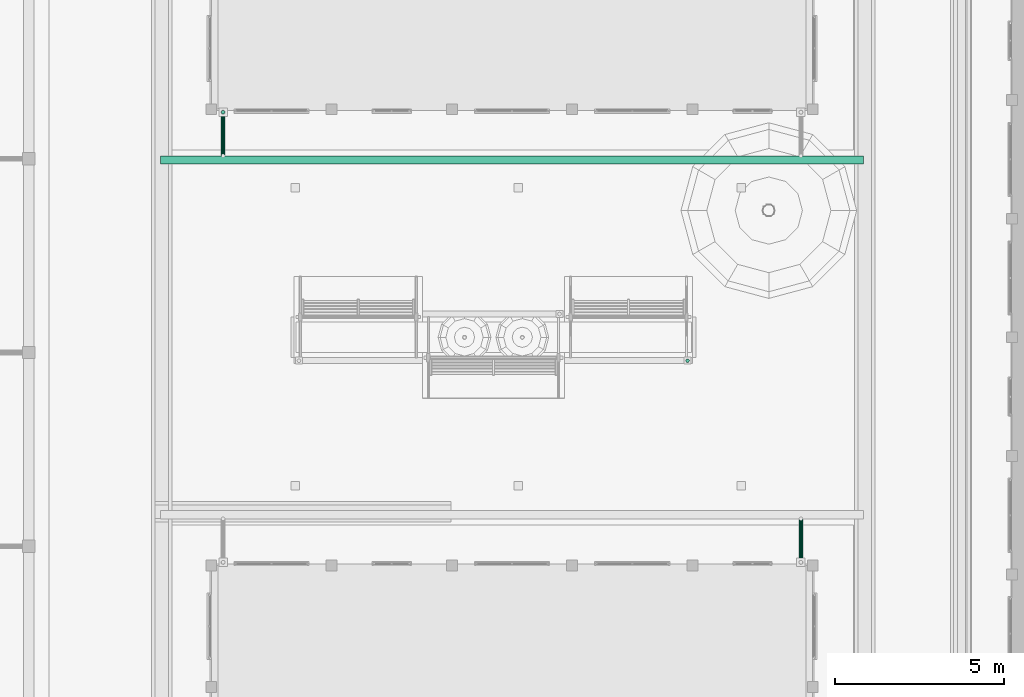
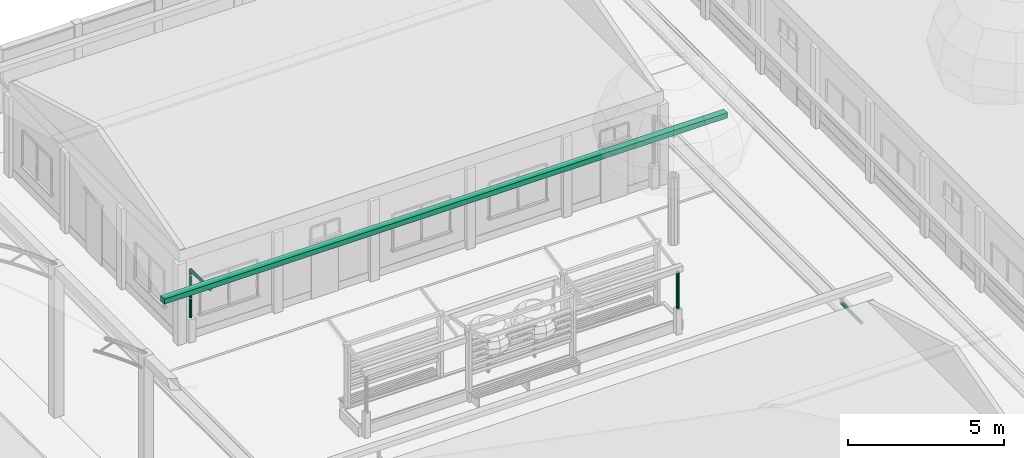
# One storey, part 110 of 177: 5 pipe segments.
"""IFC4 building model written with IfcOpenShell, lengths in metres."""

from ifc_helpers import new_model, si_unit, origin, origin_with_axes, place, context, subcontext, project, spatial, triangles, element, save


model = new_model("IFC4")

# Units and contexts
model_context = context("Model", 3, precision=1e-05, world=origin_with_axes())
body_context = subcontext(model_context, "Body", "Model", "MODEL_VIEW")
ifc_project = project(units=[si_unit("LENGTHUNIT", "METRE"), si_unit("AREAUNIT", "SQUARE_METRE"), si_unit("VOLUMEUNIT", "CUBIC_METRE"), si_unit("PLANEANGLEUNIT", "RADIAN")], contexts=[model_context])

# Site, building, storey
site_placement = place(None, origin_with_axes())
site = spatial("IfcSite", under=ifc_project, at=site_placement, Name="Predio Los Mangos - Morales, San Martín", CompositionType="ELEMENT")
building_placement = place(site_placement, origin())
building = spatial("IfcBuilding", under=site, at=building_placement, Name="Hogar de Refugio Temporal", CompositionType="ELEMENT")
storey_placement = place(building_placement, origin())
storey = spatial("IfcBuildingStorey", under=building, at=storey_placement, Name="NIVEL 1 (NPT +0.00)", CompositionType="ELEMENT", Elevation=0.0)

# Pipe segments
pipe_segment_1_placement = place(storey_placement, origin())
element("IfcPipeSegment", 1, at=pipe_segment_1_placement, inside=storey, Name="E-08_canaleta", ObjectType="Canaleta", PredefinedType="GUTTER", context=body_context, shape_type="Tessellation", body=[
    triangles([(30.5, 115.38, 3.13), (51.3, 115.38, 3.13), (51.3, 115.62, 3.13), (30.5, 115.62, 3.13), (30.5, 115.38, 3.33), (51.3, 115.38, 3.33), (51.3, 115.62, 3.33), (30.5, 115.62, 3.33)], [[1, 4, 3], [1, 3, 2], [5, 6, 7], [5, 7, 8], [1, 2, 6], [1, 6, 5], [2, 3, 7], [2, 7, 6], [3, 4, 8], [3, 8, 7], [4, 1, 5], [4, 5, 8]]),
])
pipe_segment_2_placement = place(storey_placement, origin())
element("IfcPipeSegment", 2, at=pipe_segment_2_placement, inside=storey, Name="montante_desvio", ObjectType="Montante PVC 4\"", PredefinedType="RIGIDSEGMENT", context=body_context, shape_type="Tessellation", body=[
    triangles([(49.45, 104.88, 2.965), (49.45, 103.59, 2.965), (49.4775, 104.88, 2.9576), (49.4775, 103.59, 2.9576), (49.4976, 104.88, 2.9375), (49.4976, 103.59, 2.9375), (49.505, 104.88, 2.91), (49.505, 103.59, 2.91), (49.4976, 104.88, 2.8825), (49.4976, 103.59, 2.8825), (49.4775, 104.88, 2.8624), (49.4775, 103.59, 2.8624), (49.45, 104.88, 2.855), (49.45, 103.59, 2.855), (49.4225, 104.88, 2.8624), (49.4225, 103.59, 2.8624), (49.4024, 104.88, 2.8825), (49.4024, 103.59, 2.8825), (49.395, 104.88, 2.91), (49.395, 103.59, 2.91), (49.4024, 104.88, 2.9375), (49.4024, 103.59, 2.9375), (49.4225, 104.88, 2.9576), (49.4225, 103.59, 2.9576)], [[1, 2, 4], [1, 4, 3], [3, 4, 6], [3, 6, 5], [5, 6, 8], [5, 8, 7], [7, 8, 10], [7, 10, 9], [9, 10, 12], [9, 12, 11], [11, 12, 14], [11, 14, 13], [13, 14, 16], [13, 16, 15], [15, 16, 18], [15, 18, 17], [17, 18, 20], [17, 20, 19], [19, 20, 22], [19, 22, 21], [6, 4, 2], [2, 24, 22], [22, 20, 18], [18, 16, 14], [14, 12, 10], [10, 8, 6], [6, 2, 22], [22, 18, 14], [14, 10, 6], [22, 14, 6], [21, 22, 24], [21, 24, 23], [23, 24, 2], [23, 2, 1], [23, 1, 3], [3, 5, 7], [7, 9, 11], [11, 13, 15], [15, 17, 19], [19, 21, 23], [23, 3, 7], [7, 11, 15], [15, 19, 23], [7, 15, 23]]),
])
pipe_segment_3_placement = place(storey_placement, origin())
element("IfcPipeSegment", 3, at=pipe_segment_3_placement, inside=storey, Name="montante_desvio", ObjectType="Montante PVC 4\"", PredefinedType="RIGIDSEGMENT", context=body_context, shape_type="Tessellation", body=[
    triangles([(32.35, 115.62, 2.965), (32.35, 116.91, 2.965), (32.3225, 115.62, 2.9576), (32.3225, 116.91, 2.9576), (32.3024, 115.62, 2.9375), (32.3024, 116.91, 2.9375), (32.295, 115.62, 2.91), (32.295, 116.91, 2.91), (32.3024, 115.62, 2.8825), (32.3024, 116.91, 2.8825), (32.3225, 115.62, 2.8624), (32.3225, 116.91, 2.8624), (32.35, 115.62, 2.855), (32.35, 116.91, 2.855), (32.3775, 115.62, 2.8624), (32.3775, 116.91, 2.8624), (32.3976, 115.62, 2.8825), (32.3976, 116.91, 2.8825), (32.405, 115.62, 2.91), (32.405, 116.91, 2.91), (32.3976, 115.62, 2.9375), (32.3976, 116.91, 2.9375), (32.3775, 115.62, 2.9576), (32.3775, 116.91, 2.9576)], [[1, 2, 4], [1, 4, 3], [3, 4, 6], [3, 6, 5], [5, 6, 8], [5, 8, 7], [7, 8, 10], [7, 10, 9], [9, 10, 12], [9, 12, 11], [11, 12, 14], [11, 14, 13], [13, 14, 16], [13, 16, 15], [15, 16, 18], [15, 18, 17], [17, 18, 20], [17, 20, 19], [19, 20, 22], [19, 22, 21], [6, 4, 2], [2, 24, 22], [22, 20, 18], [18, 16, 14], [14, 12, 10], [10, 8, 6], [6, 2, 22], [22, 18, 14], [14, 10, 6], [22, 14, 6], [21, 22, 24], [21, 24, 23], [23, 24, 2], [23, 2, 1], [23, 1, 3], [3, 5, 7], [7, 9, 11], [11, 13, 15], [15, 17, 19], [19, 21, 23], [23, 3, 7], [7, 11, 15], [15, 19, 23], [7, 15, 23]]),
])
pipe_segment_4_placement = place(storey_placement, origin())
element("IfcPipeSegment", 4, at=pipe_segment_4_placement, inside=storey, Name="montante_bajada", ObjectType="Montante PVC 4\"", PredefinedType="RIGIDSEGMENT", context=body_context, shape_type="Tessellation", body=[
    triangles([(32.35, 116.965, 2.91), (32.35, 116.965, 1.05), (32.3225, 116.9576, 2.91), (32.3225, 116.9576, 1.05), (32.3024, 116.9375, 2.91), (32.3024, 116.9375, 1.05), (32.295, 116.91, 2.91), (32.295, 116.91, 1.05), (32.3024, 116.8825, 2.91), (32.3024, 116.8825, 1.05), (32.3225, 116.8624, 2.91), (32.3225, 116.8624, 1.05), (32.35, 116.855, 2.91), (32.35, 116.855, 1.05), (32.3775, 116.8624, 2.91), (32.3775, 116.8624, 1.05), (32.3976, 116.8825, 2.91), (32.3976, 116.8825, 1.05), (32.405, 116.91, 2.91), (32.405, 116.91, 1.05), (32.3976, 116.9375, 2.91), (32.3976, 116.9375, 1.05), (32.3775, 116.9576, 2.91), (32.3775, 116.9576, 1.05)], [[1, 2, 4], [1, 4, 3], [3, 4, 6], [3, 6, 5], [5, 6, 8], [5, 8, 7], [7, 8, 10], [7, 10, 9], [9, 10, 12], [9, 12, 11], [11, 12, 14], [11, 14, 13], [13, 14, 16], [13, 16, 15], [15, 16, 18], [15, 18, 17], [17, 18, 20], [17, 20, 19], [19, 20, 22], [19, 22, 21], [6, 4, 2], [2, 24, 22], [22, 20, 18], [18, 16, 14], [14, 12, 10], [10, 8, 6], [6, 2, 22], [22, 18, 14], [14, 10, 6], [22, 14, 6], [21, 22, 24], [21, 24, 23], [23, 24, 2], [23, 2, 1], [23, 1, 3], [3, 5, 7], [7, 9, 11], [11, 13, 15], [15, 17, 19], [19, 21, 23], [23, 3, 7], [7, 11, 15], [15, 19, 23], [7, 15, 23]]),
])
pipe_segment_5_placement = place(storey_placement, origin())
element("IfcPipeSegment", 5, at=pipe_segment_5_placement, inside=storey, Name="oc01_bajada", ObjectType="Montante PVC 4\"", PredefinedType="RIGIDSEGMENT", context=body_context, shape_type="Tessellation", body=[
    triangles([(46.095, 109.615, 2.49), (46.095, 109.615, 1.05), (46.0675, 109.6076, 2.49), (46.0675, 109.6076, 1.05), (46.0474, 109.5875, 2.49), (46.0474, 109.5875, 1.05), (46.04, 109.56, 2.49), (46.04, 109.56, 1.05), (46.0474, 109.5325, 2.49), (46.0474, 109.5325, 1.05), (46.0675, 109.5124, 2.49), (46.0675, 109.5124, 1.05), (46.095, 109.505, 2.49), (46.095, 109.505, 1.05), (46.1225, 109.5124, 2.49), (46.1225, 109.5124, 1.05), (46.1426, 109.5325, 2.49), (46.1426, 109.5325, 1.05), (46.15, 109.56, 2.49), (46.15, 109.56, 1.05), (46.1426, 109.5875, 2.49), (46.1426, 109.5875, 1.05), (46.1225, 109.6076, 2.49), (46.1225, 109.6076, 1.05)], [[1, 2, 4], [1, 4, 3], [3, 4, 6], [3, 6, 5], [5, 6, 8], [5, 8, 7], [7, 8, 10], [7, 10, 9], [9, 10, 12], [9, 12, 11], [11, 12, 14], [11, 14, 13], [13, 14, 16], [13, 16, 15], [15, 16, 18], [15, 18, 17], [17, 18, 20], [17, 20, 19], [19, 20, 22], [19, 22, 21], [6, 4, 2], [2, 24, 22], [22, 20, 18], [18, 16, 14], [14, 12, 10], [10, 8, 6], [6, 2, 22], [22, 18, 14], [14, 10, 6], [22, 14, 6], [21, 22, 24], [21, 24, 23], [23, 24, 2], [23, 2, 1], [23, 1, 3], [3, 5, 7], [7, 9, 11], [11, 13, 15], [15, 17, 19], [19, 21, 23], [23, 3, 7], [7, 11, 15], [15, 19, 23], [7, 15, 23]]),
])

save(model, "model.ifc")
